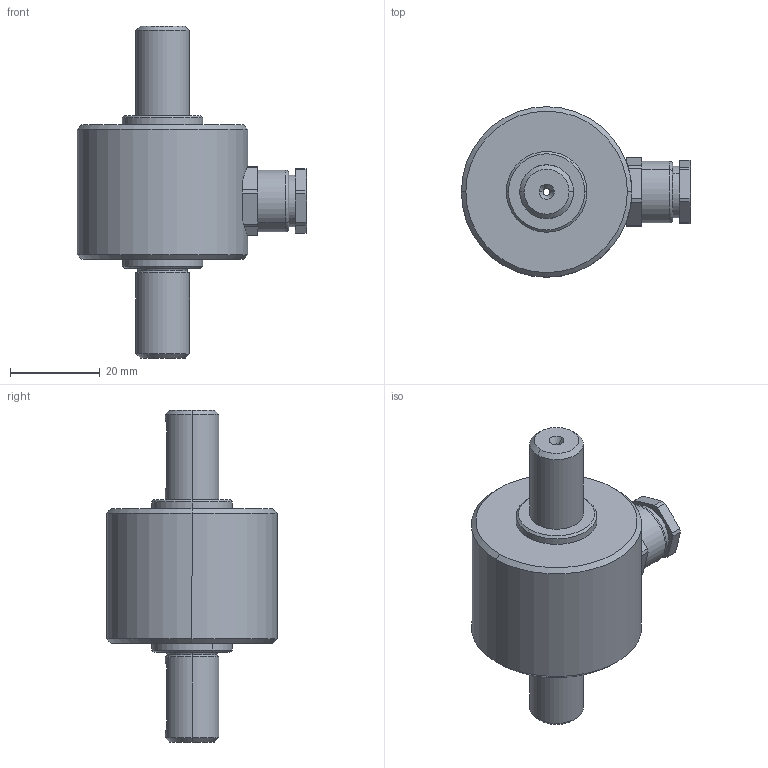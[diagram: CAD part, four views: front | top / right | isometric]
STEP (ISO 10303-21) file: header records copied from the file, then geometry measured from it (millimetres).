
FILE_DESCRIPTION (( 'STEP AP203' ), '1' );
FILE_NAME ('DRW-K-15-20.STEP', '2014-05-13T12:20:32', ( 'nsi' ), ( '' ), 'SwSTEP 2.0', 'SolidWorks 2014', '' );
FILE_SCHEMA (( 'CONFIG_CONTROL_DESIGN' ));
Length unit declared in the file: millimetre
Products named in the file (1): DRW-K-15-20
Bounding box: 51.1 x 38 x 74 mm (x, y, z)
Surface area: 9686.1 mm2 (no closed solid volume)
Topology: 0 solids, 5 shells, 110 faces, 265 edges, 168 vertices
Faces by surface type: plane 43, cylinder 37, cone 24, torus 6
Entity records: 3427 total; most frequent: CARTESIAN_POINT 766, DIRECTION 566, ORIENTED_EDGE 494, EDGE_CURVE 263, AXIS2_PLACEMENT_3D 216, VERTEX_POINT 168, LINE 134, VECTOR 134
